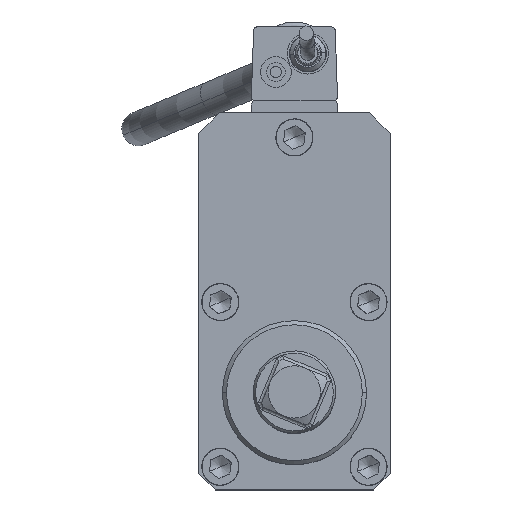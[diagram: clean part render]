
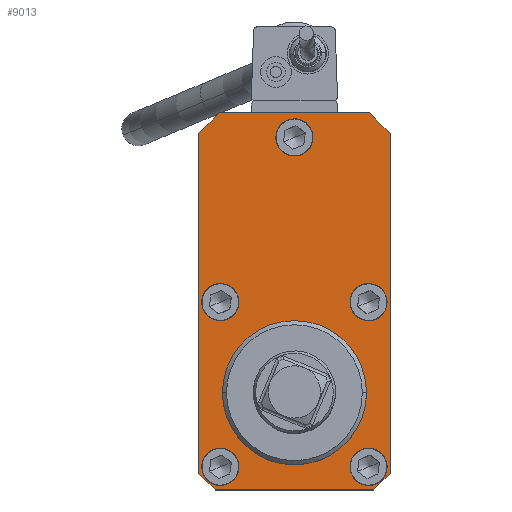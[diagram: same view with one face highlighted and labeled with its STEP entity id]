
A CAD part, top view. The second image highlights one B-rep face of the part: STEP entity #9013.
In plain terms, the highlighted planar face has unit normal (0, 0, 1).
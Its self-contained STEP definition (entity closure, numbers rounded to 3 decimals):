
#8874=AXIS2_PLACEMENT_3D('Plane Axis2P3D',#8871,#8872,#8873) ;
#8907=AXIS2_PLACEMENT_3D('Circle Axis2P3D',#8905,#8906,$) ;
#8916=AXIS2_PLACEMENT_3D('Circle Axis2P3D',#8914,#8915,$) ;
#8925=AXIS2_PLACEMENT_3D('Circle Axis2P3D',#8923,#8924,$) ;
#8934=AXIS2_PLACEMENT_3D('Circle Axis2P3D',#8932,#8933,$) ;
#8943=AXIS2_PLACEMENT_3D('Circle Axis2P3D',#8941,#8942,$) ;
#8952=AXIS2_PLACEMENT_3D('Circle Axis2P3D',#8950,#8951,$) ;
#8961=AXIS2_PLACEMENT_3D('Circle Axis2P3D',#8959,#8960,$) ;
#8970=AXIS2_PLACEMENT_3D('Circle Axis2P3D',#8968,#8969,$) ;
#8979=AXIS2_PLACEMENT_3D('Circle Axis2P3D',#8977,#8978,$) ;
#8988=AXIS2_PLACEMENT_3D('Circle Axis2P3D',#8986,#8987,$) ;
#8997=AXIS2_PLACEMENT_3D('Circle Axis2P3D',#8995,#8996,$) ;
#9006=AXIS2_PLACEMENT_3D('Circle Axis2P3D',#9004,#9005,$) ;
#8677=CARTESIAN_POINT('Vertex',(-36.5,41.5,483.3)) ;
#8680=CARTESIAN_POINT('Line Origine',(0.,41.5,483.3)) ;
#8684=CARTESIAN_POINT('Vertex',(36.5,41.5,483.3)) ;
#8705=CARTESIAN_POINT('Line Origine',(41.5,36.5,483.3)) ;
#8709=CARTESIAN_POINT('Vertex',(46.5,31.5,483.3)) ;
#8743=CARTESIAN_POINT('Line Origine',(46.5,-51.,483.3)) ;
#8747=CARTESIAN_POINT('Vertex',(46.5,-133.5,483.3)) ;
#8819=CARTESIAN_POINT('Vertex',(-46.5,-133.5,483.3)) ;
#8822=CARTESIAN_POINT('Line Origine',(-46.5,-51.,483.3)) ;
#8826=CARTESIAN_POINT('Vertex',(-46.5,31.5,483.3)) ;
#8849=CARTESIAN_POINT('Line Origine',(-41.5,36.5,483.3)) ;
#8871=CARTESIAN_POINT('Axis2P3D Location',(0.,0.,483.3)) ;
#8876=CARTESIAN_POINT('Line Origine',(-42.5,-137.5,483.3)) ;
#8880=CARTESIAN_POINT('Vertex',(-38.5,-141.5,483.3)) ;
#8883=CARTESIAN_POINT('Line Origine',(0.,-141.5,483.3)) ;
#8887=CARTESIAN_POINT('Vertex',(38.5,-141.5,483.3)) ;
#8890=CARTESIAN_POINT('Line Origine',(42.5,-137.5,483.3)) ;
#8905=CARTESIAN_POINT('Axis2P3D Location',(-36.,-50.5,483.3)) ;
#8909=CARTESIAN_POINT('Vertex',(-30.688,-53.402,483.3)) ;
#8911=CARTESIAN_POINT('Vertex',(-41.312,-47.598,483.3)) ;
#8914=CARTESIAN_POINT('Axis2P3D Location',(-36.,-50.5,483.3)) ;
#8923=CARTESIAN_POINT('Axis2P3D Location',(-36.,-130.5,483.3)) ;
#8927=CARTESIAN_POINT('Vertex',(-30.688,-133.402,483.3)) ;
#8929=CARTESIAN_POINT('Vertex',(-41.312,-127.598,483.3)) ;
#8932=CARTESIAN_POINT('Axis2P3D Location',(-36.,-130.5,483.3)) ;
#8941=CARTESIAN_POINT('Axis2P3D Location',(36.,-50.5,483.3)) ;
#8945=CARTESIAN_POINT('Vertex',(41.312,-53.402,483.3)) ;
#8947=CARTESIAN_POINT('Vertex',(30.688,-47.598,483.3)) ;
#8950=CARTESIAN_POINT('Axis2P3D Location',(36.,-50.5,483.3)) ;
#8959=CARTESIAN_POINT('Axis2P3D Location',(36.,-130.5,483.3)) ;
#8963=CARTESIAN_POINT('Vertex',(41.312,-133.402,483.3)) ;
#8965=CARTESIAN_POINT('Vertex',(30.688,-127.598,483.3)) ;
#8968=CARTESIAN_POINT('Axis2P3D Location',(36.,-130.5,483.3)) ;
#8977=CARTESIAN_POINT('Axis2P3D Location',(0.,29.5,483.3)) ;
#8981=CARTESIAN_POINT('Vertex',(5.312,26.598,483.3)) ;
#8983=CARTESIAN_POINT('Vertex',(-5.312,32.402,483.3)) ;
#8986=CARTESIAN_POINT('Axis2P3D Location',(0.,29.5,483.3)) ;
#8995=CARTESIAN_POINT('Axis2P3D Location',(0.,-94.5,483.3)) ;
#8999=CARTESIAN_POINT('Vertex',(35.,-94.5,483.3)) ;
#9001=CARTESIAN_POINT('Vertex',(-35.,-94.5,483.3)) ;
#9004=CARTESIAN_POINT('Axis2P3D Location',(0.,-94.5,483.3)) ;
#8681=DIRECTION('Vector Direction',(-1.,0.,0.)) ;
#8706=DIRECTION('Vector Direction',(0.707,-0.707,0.)) ;
#8744=DIRECTION('Vector Direction',(0.,-1.,0.)) ;
#8823=DIRECTION('Vector Direction',(0.,1.,0.)) ;
#8850=DIRECTION('Vector Direction',(-0.707,-0.707,0.)) ;
#8872=DIRECTION('Axis2P3D Direction',(0.,0.,-1.)) ;
#8873=DIRECTION('Axis2P3D XDirection',(-1.,0.,0.)) ;
#8877=DIRECTION('Vector Direction',(0.707,-0.707,0.)) ;
#8884=DIRECTION('Vector Direction',(1.,0.,0.)) ;
#8891=DIRECTION('Vector Direction',(0.707,0.707,0.)) ;
#8906=DIRECTION('Axis2P3D Direction',(0.,0.,-1.)) ;
#8915=DIRECTION('Axis2P3D Direction',(0.,0.,-1.)) ;
#8924=DIRECTION('Axis2P3D Direction',(0.,0.,-1.)) ;
#8933=DIRECTION('Axis2P3D Direction',(0.,0.,-1.)) ;
#8942=DIRECTION('Axis2P3D Direction',(0.,0.,-1.)) ;
#8951=DIRECTION('Axis2P3D Direction',(0.,0.,-1.)) ;
#8960=DIRECTION('Axis2P3D Direction',(0.,0.,-1.)) ;
#8969=DIRECTION('Axis2P3D Direction',(0.,0.,-1.)) ;
#8978=DIRECTION('Axis2P3D Direction',(0.,0.,-1.)) ;
#8987=DIRECTION('Axis2P3D Direction',(0.,0.,-1.)) ;
#8996=DIRECTION('Axis2P3D Direction',(0.,0.,-1.)) ;
#9005=DIRECTION('Axis2P3D Direction',(0.,0.,-1.)) ;
#8682=VECTOR('Line Direction',#8681,1.) ;
#8707=VECTOR('Line Direction',#8706,1.) ;
#8745=VECTOR('Line Direction',#8744,1.) ;
#8824=VECTOR('Line Direction',#8823,1.) ;
#8851=VECTOR('Line Direction',#8850,1.) ;
#8878=VECTOR('Line Direction',#8877,1.) ;
#8885=VECTOR('Line Direction',#8884,1.) ;
#8892=VECTOR('Line Direction',#8891,1.) ;
#8896=ORIENTED_EDGE('',*,*,#8686,.T.) ;
#8897=ORIENTED_EDGE('',*,*,#8853,.T.) ;
#8898=ORIENTED_EDGE('',*,*,#8828,.T.) ;
#8899=ORIENTED_EDGE('',*,*,#8882,.T.) ;
#8900=ORIENTED_EDGE('',*,*,#8889,.T.) ;
#8901=ORIENTED_EDGE('',*,*,#8894,.T.) ;
#8902=ORIENTED_EDGE('',*,*,#8749,.T.) ;
#8903=ORIENTED_EDGE('',*,*,#8711,.T.) ;
#8920=ORIENTED_EDGE('',*,*,#8913,.T.) ;
#8921=ORIENTED_EDGE('',*,*,#8918,.T.) ;
#8938=ORIENTED_EDGE('',*,*,#8931,.T.) ;
#8939=ORIENTED_EDGE('',*,*,#8936,.T.) ;
#8956=ORIENTED_EDGE('',*,*,#8949,.T.) ;
#8957=ORIENTED_EDGE('',*,*,#8954,.T.) ;
#8974=ORIENTED_EDGE('',*,*,#8967,.T.) ;
#8975=ORIENTED_EDGE('',*,*,#8972,.T.) ;
#8992=ORIENTED_EDGE('',*,*,#8985,.T.) ;
#8993=ORIENTED_EDGE('',*,*,#8990,.T.) ;
#9010=ORIENTED_EDGE('',*,*,#9003,.T.) ;
#9011=ORIENTED_EDGE('',*,*,#9008,.T.) ;
#8922=FACE_BOUND('',#8919,.T.) ;
#8940=FACE_BOUND('',#8937,.T.) ;
#8958=FACE_BOUND('',#8955,.T.) ;
#8976=FACE_BOUND('',#8973,.T.) ;
#8994=FACE_BOUND('',#8991,.T.) ;
#9012=FACE_BOUND('',#9009,.T.) ;
#9013=ADVANCED_FACE('AOD-350-1000.1\\AOD350-1000.1\\Hauptk\X2\00F6\X0\rper',(#8904,#8922,#8940,#8958,#8976,#8994,#9012),#8875,.F.) ;
#8908=CIRCLE('generated circle',#8907,6.053) ;
#8917=CIRCLE('generated circle',#8916,6.053) ;
#8926=CIRCLE('generated circle',#8925,6.053) ;
#8935=CIRCLE('generated circle',#8934,6.053) ;
#8944=CIRCLE('generated circle',#8943,6.053) ;
#8953=CIRCLE('generated circle',#8952,6.053) ;
#8962=CIRCLE('generated circle',#8961,6.053) ;
#8971=CIRCLE('generated circle',#8970,6.053) ;
#8980=CIRCLE('generated circle',#8979,6.053) ;
#8989=CIRCLE('generated circle',#8988,6.053) ;
#8998=CIRCLE('generated circle',#8997,35.) ;
#9007=CIRCLE('generated circle',#9006,35.) ;
#8686=EDGE_CURVE('',#8685,#8678,#8683,.T.) ;
#8711=EDGE_CURVE('',#8710,#8685,#8708,.F.) ;
#8749=EDGE_CURVE('',#8748,#8710,#8746,.F.) ;
#8828=EDGE_CURVE('',#8827,#8820,#8825,.F.) ;
#8853=EDGE_CURVE('',#8678,#8827,#8852,.T.) ;
#8882=EDGE_CURVE('',#8820,#8881,#8879,.T.) ;
#8889=EDGE_CURVE('',#8881,#8888,#8886,.T.) ;
#8894=EDGE_CURVE('',#8888,#8748,#8893,.T.) ;
#8913=EDGE_CURVE('',#8910,#8912,#8908,.T.) ;
#8918=EDGE_CURVE('',#8912,#8910,#8917,.T.) ;
#8931=EDGE_CURVE('',#8928,#8930,#8926,.T.) ;
#8936=EDGE_CURVE('',#8930,#8928,#8935,.T.) ;
#8949=EDGE_CURVE('',#8946,#8948,#8944,.T.) ;
#8954=EDGE_CURVE('',#8948,#8946,#8953,.T.) ;
#8967=EDGE_CURVE('',#8964,#8966,#8962,.T.) ;
#8972=EDGE_CURVE('',#8966,#8964,#8971,.T.) ;
#8985=EDGE_CURVE('',#8982,#8984,#8980,.T.) ;
#8990=EDGE_CURVE('',#8984,#8982,#8989,.T.) ;
#9003=EDGE_CURVE('',#9000,#9002,#8998,.T.) ;
#9008=EDGE_CURVE('',#9002,#9000,#9007,.T.) ;
#8895=EDGE_LOOP('',(#8896,#8897,#8898,#8899,#8900,#8901,#8902,#8903)) ;
#8919=EDGE_LOOP('',(#8920,#8921)) ;
#8937=EDGE_LOOP('',(#8938,#8939)) ;
#8955=EDGE_LOOP('',(#8956,#8957)) ;
#8973=EDGE_LOOP('',(#8974,#8975)) ;
#8991=EDGE_LOOP('',(#8992,#8993)) ;
#9009=EDGE_LOOP('',(#9010,#9011)) ;
#8904=FACE_OUTER_BOUND('',#8895,.T.) ;
#8683=LINE('Line',#8680,#8682) ;
#8708=LINE('Line',#8705,#8707) ;
#8746=LINE('Line',#8743,#8745) ;
#8825=LINE('Line',#8822,#8824) ;
#8852=LINE('Line',#8849,#8851) ;
#8879=LINE('Line',#8876,#8878) ;
#8886=LINE('Line',#8883,#8885) ;
#8893=LINE('Line',#8890,#8892) ;
#8875=PLANE('',#8874) ;
#8678=VERTEX_POINT('',#8677) ;
#8685=VERTEX_POINT('',#8684) ;
#8710=VERTEX_POINT('',#8709) ;
#8748=VERTEX_POINT('',#8747) ;
#8820=VERTEX_POINT('',#8819) ;
#8827=VERTEX_POINT('',#8826) ;
#8881=VERTEX_POINT('',#8880) ;
#8888=VERTEX_POINT('',#8887) ;
#8910=VERTEX_POINT('',#8909) ;
#8912=VERTEX_POINT('',#8911) ;
#8928=VERTEX_POINT('',#8927) ;
#8930=VERTEX_POINT('',#8929) ;
#8946=VERTEX_POINT('',#8945) ;
#8948=VERTEX_POINT('',#8947) ;
#8964=VERTEX_POINT('',#8963) ;
#8966=VERTEX_POINT('',#8965) ;
#8982=VERTEX_POINT('',#8981) ;
#8984=VERTEX_POINT('',#8983) ;
#9000=VERTEX_POINT('',#8999) ;
#9002=VERTEX_POINT('',#9001) ;
